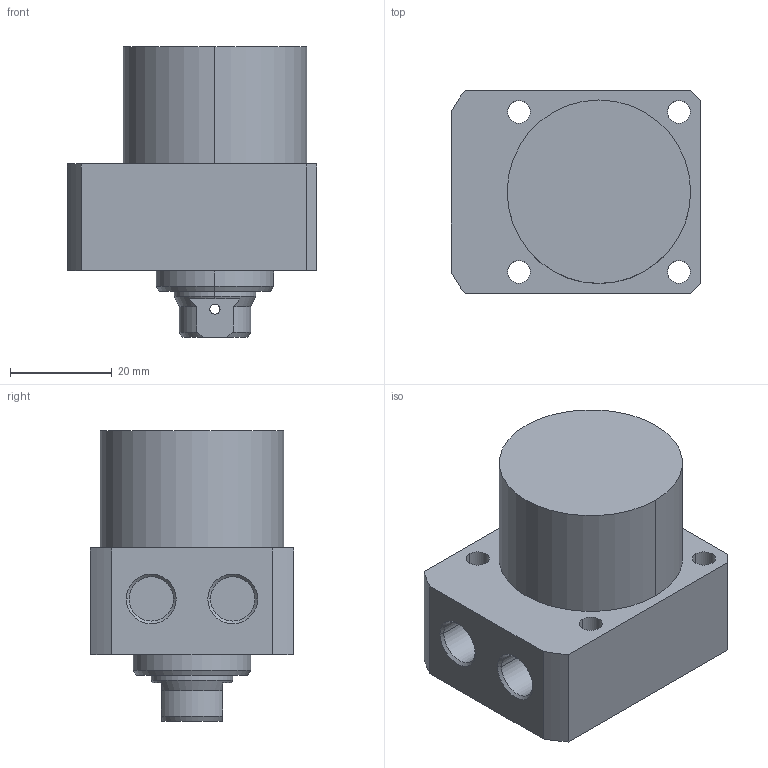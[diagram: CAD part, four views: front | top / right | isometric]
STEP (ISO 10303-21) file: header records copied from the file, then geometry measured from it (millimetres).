
FILE_DESCRIPTION((' '),'2;1');
FILE_NAME( 'TLLR-036CB-015.STEP.stp', '2025-10-24T16:35:44', (' '), ('--- Datakit www.datakit.com---'), ' Datakit CrossCadWare V2024.1 Dec 21 2023', 'Mastercam 2025', ' ');
FILE_SCHEMA(('AUTOMOTIVE_DESIGN { 1 0 10303 214 1 1 1 1 }'));
Length unit declared in the file: millimetre
Products named in the file (1): TLLR-036CB-015
Bounding box: 49 x 40 x 57 mm (x, y, z)
Volume: 64092.5 mm3; surface area: 12713.6 mm2
Topology: 1 solids, 1 shells, 65 faces, 192 edges, 133 vertices
Faces by surface type: cylinder 32, plane 19, cone 14
Entity records: 2878 total; most frequent: CARTESIAN_POINT 1013, DIRECTION 410, ORIENTED_EDGE 380, EDGE_CURVE 190, AXIS2_PLACEMENT_3D 170, VERTEX_POINT 133, CIRCLE 104, EDGE_LOOP 83
